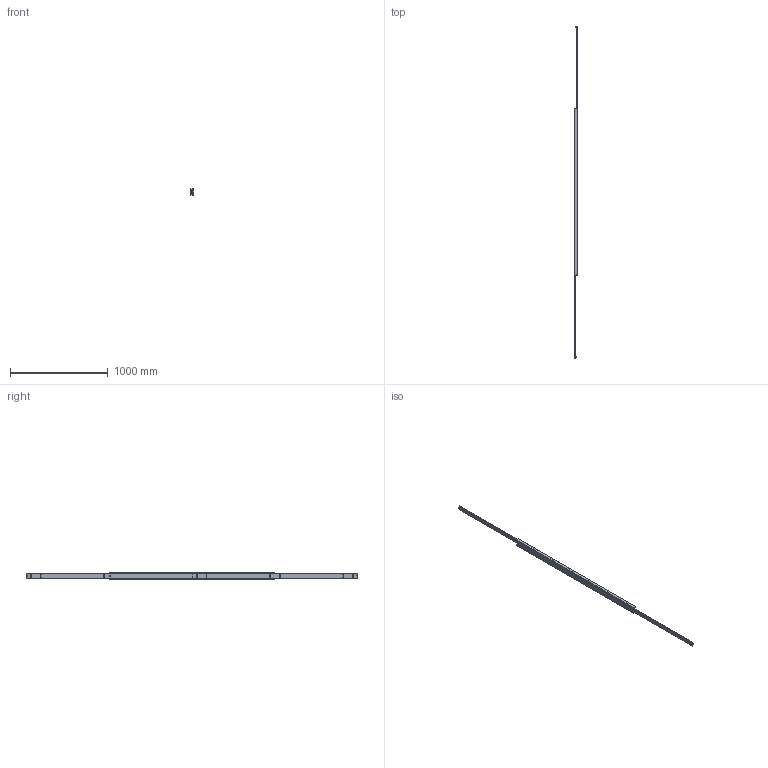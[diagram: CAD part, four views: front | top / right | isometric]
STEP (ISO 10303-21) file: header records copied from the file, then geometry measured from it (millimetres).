
FILE_DESCRIPTION(/* description */ (''),/* implementation_level */ '2;1');
FILE_NAME(/* name */ 'D:\Zeichnungen Schienen Komplett\MX-DTP70\MX-DTP70.170\MX-DTP70.170_ausgefahren.step',/* time_stamp */ '2022-08-30T15:36:11+02:00',/* author */ ('zmile'),/* organization */ (''),/* preprocessor_version */ 'ST-DEVELOPER v16.13',/* originating_system */ 'AutoCAD Mechanical',/* authorisation */ '');
FILE_SCHEMA (('AUTOMOTIVE_DESIGN { 1 0 10303 214 3 1 1 }'));
Products named in the file (1): Product
Bounding box: 32 x 3400 x 70 mm (x, y, z)
Volume: 3025252 mm3; surface area: 1076107.7 mm2
Topology: 119 solids, 119 shells, 442 faces, 1264 edges, 840 vertices
Faces by surface type: cylinder 152, sphere 112, plane 86, bspline 86, torus 6
Full cylindrical faces by diameter (mm): 9 x112, 13 x2
Entity records: 195987 total; most frequent: CARTESIAN_POINT 185745, ORIENTED_EDGE 1836, DIRECTION 1782, EDGE_CURVE 918, EDGE_LOOP 842, VERTEX_POINT 838, AXIS2_PLACEMENT_3D 785, FACE_OUTER_BOUND 442
